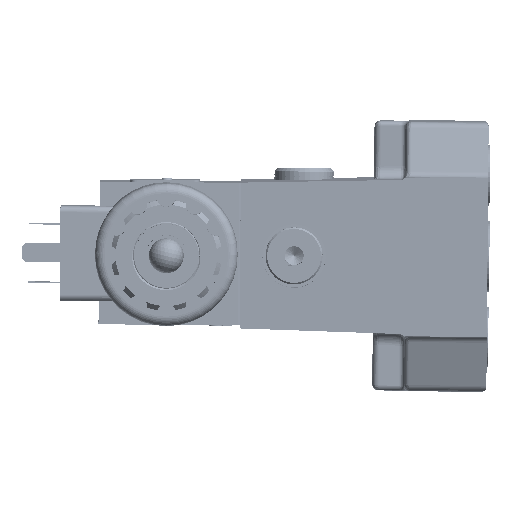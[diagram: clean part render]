
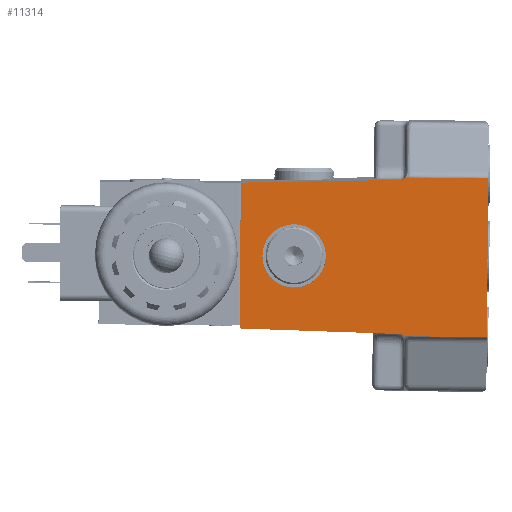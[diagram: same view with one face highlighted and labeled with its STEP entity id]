
A CAD part, left-side view. The second image highlights one B-rep face of the part: STEP entity #11314.
In plain terms, the highlighted planar face has unit normal (-1, 0.022, -0.009).
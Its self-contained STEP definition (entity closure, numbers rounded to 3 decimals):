
#552=PLANE('',#43274);
#900=FACE_BOUND('',#16015,.T.);
#901=FACE_BOUND('',#16016,.T.);
#3933=(
BOUNDED_CURVE()
B_SPLINE_CURVE(3,(#83151,#83152,#83153,#83154),.UNSPECIFIED.,.F.,.F.)
B_SPLINE_CURVE_WITH_KNOTS((4,4),(0.,1.),.UNSPECIFIED.)
CURVE()
GEOMETRIC_REPRESENTATION_ITEM()
RATIONAL_B_SPLINE_CURVE((1.,0.333,0.333,1.))
REPRESENTATION_ITEM('')
);
#3936=(
BOUNDED_CURVE()
B_SPLINE_CURVE(3,(#84913,#84914,#84915,#84916),.UNSPECIFIED.,.F.,.F.)
B_SPLINE_CURVE_WITH_KNOTS((4,4),(0.,1.),.UNSPECIFIED.)
CURVE()
GEOMETRIC_REPRESENTATION_ITEM()
RATIONAL_B_SPLINE_CURVE((1.,0.965,0.965,1.))
REPRESENTATION_ITEM('')
);
#3938=(
BOUNDED_CURVE()
B_SPLINE_CURVE(3,(#85004,#85005,#85006,#85007),.UNSPECIFIED.,.F.,.F.)
B_SPLINE_CURVE_WITH_KNOTS((4,4),(0.,1.),.UNSPECIFIED.)
CURVE()
GEOMETRIC_REPRESENTATION_ITEM()
RATIONAL_B_SPLINE_CURVE((1.,0.965,0.965,1.))
REPRESENTATION_ITEM('')
);
#3953=(
BOUNDED_CURVE()
B_SPLINE_CURVE(3,(#86410,#86411,#86412,#86413),.UNSPECIFIED.,.F.,.F.)
B_SPLINE_CURVE_WITH_KNOTS((4,4),(0.,1.),.UNSPECIFIED.)
CURVE()
GEOMETRIC_REPRESENTATION_ITEM()
RATIONAL_B_SPLINE_CURVE((1.,0.962,0.962,1.))
REPRESENTATION_ITEM('')
);
#3955=(
BOUNDED_CURVE()
B_SPLINE_CURVE(3,(#86568,#86569,#86570,#86571),.UNSPECIFIED.,.F.,.F.)
B_SPLINE_CURVE_WITH_KNOTS((4,4),(0.,1.),.UNSPECIFIED.)
CURVE()
GEOMETRIC_REPRESENTATION_ITEM()
RATIONAL_B_SPLINE_CURVE((1.,0.962,0.962,1.))
REPRESENTATION_ITEM('')
);
#3957=(
BOUNDED_CURVE()
B_SPLINE_CURVE(3,(#86738,#86739,#86740,#86741),.UNSPECIFIED.,.F.,.F.)
B_SPLINE_CURVE_WITH_KNOTS((4,4),(0.,1.),.UNSPECIFIED.)
CURVE()
GEOMETRIC_REPRESENTATION_ITEM()
RATIONAL_B_SPLINE_CURVE((1.,0.333,0.333,1.))
REPRESENTATION_ITEM('')
);
#6753=LINE('',#85113,#9017);
#6766=LINE('',#85520,#9030);
#6825=LINE('',#85862,#9089);
#6842=LINE('',#85960,#9106);
#6855=LINE('',#86016,#9119);
#6858=LINE('',#86023,#9122);
#9017=VECTOR('',#48673,1.);
#9030=VECTOR('',#48746,1.);
#9089=VECTOR('',#48931,1.);
#9106=VECTOR('',#48958,1.);
#9119=VECTOR('',#48997,1.);
#9122=VECTOR('',#49002,1.);
#11314=ADVANCED_FACE('',(#900,#901),#552,.F.);
#16015=EDGE_LOOP('',(#22008,#22009));
#16016=EDGE_LOOP('',(#22010,#22011,#22012,#22013,#22014,#22015,#22016,#22017,
#22018,#22019));
#22008=ORIENTED_EDGE('',*,*,#37098,.T.);
#22009=ORIENTED_EDGE('',*,*,#36397,.T.);
#22010=ORIENTED_EDGE('',*,*,#36852,.T.);
#22011=ORIENTED_EDGE('',*,*,#36990,.T.);
#22012=ORIENTED_EDGE('',*,*,#36755,.T.);
#22013=ORIENTED_EDGE('',*,*,#37082,.F.);
#22014=ORIENTED_EDGE('',*,*,#37011,.F.);
#22015=ORIENTED_EDGE('',*,*,#36796,.T.);
#22016=ORIENTED_EDGE('',*,*,#37014,.T.);
#22017=ORIENTED_EDGE('',*,*,#37068,.F.);
#22018=ORIENTED_EDGE('',*,*,#36729,.T.);
#22019=ORIENTED_EDGE('',*,*,#36967,.T.);
#31603=VERTEX_POINT('',#83155);
#31604=VERTEX_POINT('',#83156);
#31863=VERTEX_POINT('',#84912);
#31864=VERTEX_POINT('',#84917);
#31885=VERTEX_POINT('',#85003);
#31886=VERTEX_POINT('',#85008);
#31923=VERTEX_POINT('',#85112);
#31924=VERTEX_POINT('',#85114);
#31957=VERTEX_POINT('',#85519);
#31958=VERTEX_POINT('',#85521);
#32056=VERTEX_POINT('',#86017);
#32058=VERTEX_POINT('',#86022);
#36397=EDGE_CURVE('',#31603,#31604,#3933,.T.);
#36729=EDGE_CURVE('',#31864,#31863,#3936,.T.);
#36755=EDGE_CURVE('',#31886,#31885,#3938,.T.);
#36796=EDGE_CURVE('',#31924,#31923,#6753,.T.);
#36852=EDGE_CURVE('',#31958,#31957,#6766,.T.);
#36967=EDGE_CURVE('',#31863,#31958,#6825,.T.);
#36990=EDGE_CURVE('',#31957,#31886,#6842,.T.);
#37011=EDGE_CURVE('',#31924,#32056,#6855,.T.);
#37014=EDGE_CURVE('',#31923,#32058,#6858,.T.);
#37068=EDGE_CURVE('',#31864,#32058,#3953,.T.);
#37082=EDGE_CURVE('',#32056,#31885,#3955,.T.);
#37098=EDGE_CURVE('',#31604,#31603,#3957,.T.);
#43274=AXIS2_PLACEMENT_3D('',#86742,#49205,#49206);
#48673=DIRECTION('',(-0.009,-0.009,1.));
#48746=DIRECTION('',(0.009,0.009,-1.));
#48931=DIRECTION('',(0.022,1.,-0.017));
#48958=DIRECTION('',(-0.021,-0.999,-0.035));
#48997=DIRECTION('',(0.022,1.,0.009));
#49002=DIRECTION('',(0.022,1.,0.009));
#49205=DIRECTION('',(1.,-0.022,0.009));
#49206=DIRECTION('',(-0.022,-1.,-0.009));
#83151=CARTESIAN_POINT('',(-88.297,-9.867,119.608));
#83152=CARTESIAN_POINT('',(-88.122,-9.693,99.61));
#83153=CARTESIAN_POINT('',(-87.691,10.306,99.788));
#83154=CARTESIAN_POINT('',(-87.865,10.132,119.787));
#83155=CARTESIAN_POINT('',(-88.297,-9.867,119.608));
#83156=CARTESIAN_POINT('',(-87.865,10.132,119.787));
#84912=CARTESIAN_POINT('',(-89.015,-33.519,143.691));
#84913=CARTESIAN_POINT('',(-89.039,-34.485,144.035));
#84914=CARTESIAN_POINT('',(-89.031,-34.207,143.816));
#84915=CARTESIAN_POINT('',(-89.023,-33.873,143.697));
#84916=CARTESIAN_POINT('',(-89.015,-33.519,143.691));
#84917=CARTESIAN_POINT('',(-89.039,-34.485,144.035));
#85003=CARTESIAN_POINT('',(-88.609,-34.055,94.746));
#85004=CARTESIAN_POINT('',(-88.591,-33.095,95.108));
#85005=CARTESIAN_POINT('',(-88.599,-33.449,95.096));
#85006=CARTESIAN_POINT('',(-88.605,-33.781,94.971));
#85007=CARTESIAN_POINT('',(-88.609,-34.055,94.746));
#85008=CARTESIAN_POINT('',(-88.591,-33.095,95.108));
#85112=CARTESIAN_POINT('',(-89.616,-61.084,144.152));
#85113=CARTESIAN_POINT('',(-89.197,-60.665,96.156));
#85114=CARTESIAN_POINT('',(-89.18,-60.647,94.156));
#85519=CARTESIAN_POINT('',(-87.513,17.332,96.851));
#85520=CARTESIAN_POINT('',(-87.369,17.476,80.352));
#85521=CARTESIAN_POINT('',(-87.915,16.931,142.847));
#85862=CARTESIAN_POINT('',(-88.82,-24.575,143.541));
#85960=CARTESIAN_POINT('',(-87.558,15.257,96.779));
#86016=CARTESIAN_POINT('',(-87.492,17.528,94.853));
#86017=CARTESIAN_POINT('',(-88.627,-35.055,94.384));
#86022=CARTESIAN_POINT('',(-89.064,-35.491,144.38));
#86023=CARTESIAN_POINT('',(-87.932,16.92,144.847));
#86410=CARTESIAN_POINT('',(-89.039,-34.485,144.035));
#86411=CARTESIAN_POINT('',(-89.047,-34.774,144.264));
#86412=CARTESIAN_POINT('',(-89.056,-35.122,144.383));
#86413=CARTESIAN_POINT('',(-89.064,-35.491,144.38));
#86568=CARTESIAN_POINT('',(-88.627,-35.055,94.384));
#86569=CARTESIAN_POINT('',(-88.619,-34.686,94.387));
#86570=CARTESIAN_POINT('',(-88.613,-34.34,94.513));
#86571=CARTESIAN_POINT('',(-88.609,-34.055,94.746));
#86738=CARTESIAN_POINT('',(-87.865,10.132,119.787));
#86739=CARTESIAN_POINT('',(-88.04,9.957,139.785));
#86740=CARTESIAN_POINT('',(-88.471,-10.042,139.607));
#86741=CARTESIAN_POINT('',(-88.297,-9.867,119.608));
#86742=CARTESIAN_POINT('',(-88.789,16.056,243.06));
